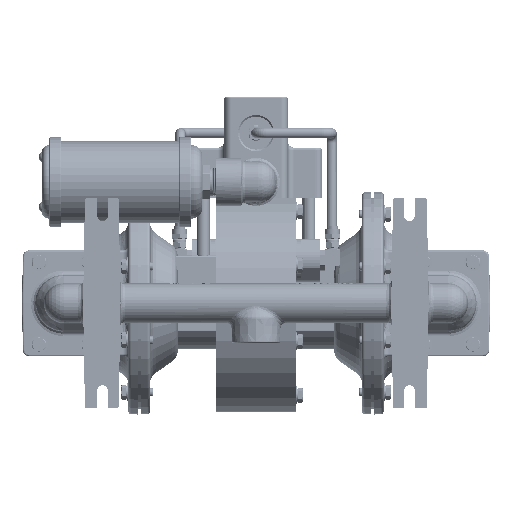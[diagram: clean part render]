
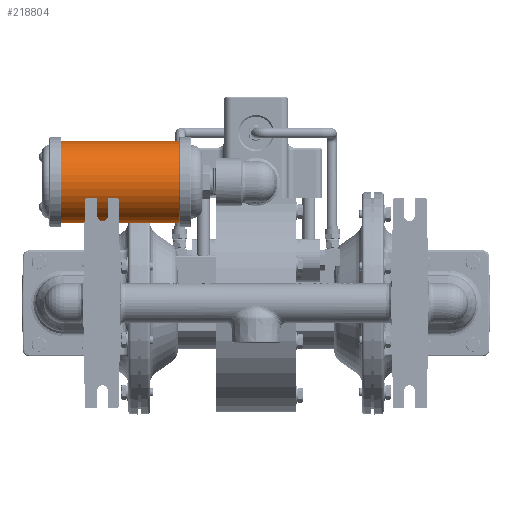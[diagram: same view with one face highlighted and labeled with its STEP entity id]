
A CAD part, front view. The second image highlights one B-rep face of the part: STEP entity #218804.
In plain terms, the highlighted cylindrical face has radius 39.243 mm (diameter 78.486 mm), a partial arc.
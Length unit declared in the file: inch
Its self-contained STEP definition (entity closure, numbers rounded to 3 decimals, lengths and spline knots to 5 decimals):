
#8023 = CARTESIAN_POINT ( 'NONE',  ( -7.389, -4.6, 6.145 ) ) ;
#22004 = CARTESIAN_POINT ( 'NONE',  ( -2.91, -4.6, 3.055 ) ) ;
#34542 = ORIENTED_EDGE ( 'NONE', *, *, #286195, .T. ) ;
#36839 = DIRECTION ( 'NONE',  ( 1., 0., 0. ) ) ;
#38742 = AXIS2_PLACEMENT_3D ( 'NONE', #213625, #169675, #286298 ) ;
#39843 = CYLINDRICAL_SURFACE ( 'NONE', #73185, 1.545 ) ;
#43217 = VECTOR ( 'NONE', #294416, 39.37008 ) ;
#53361 = VERTEX_POINT ( 'NONE', #110111 ) ;
#62474 = VERTEX_POINT ( 'NONE', #267874 ) ;
#65779 = LINE ( 'NONE', #203695, #237184 ) ;
#68714 = EDGE_LOOP ( 'NONE', ( #34542, #126124, #135237, #289343 ) ) ;
#73185 = AXIS2_PLACEMENT_3D ( 'NONE', #294401, #36839, #86819 ) ;
#86819 = DIRECTION ( 'NONE',  ( 0., 0., -1. ) ) ;
#106883 = EDGE_CURVE ( 'NONE', #62474, #206859, #111402, .T. ) ;
#110111 = CARTESIAN_POINT ( 'NONE',  ( -7.389, -4.6, 3.055 ) ) ;
#111402 = CIRCLE ( 'NONE', #38742, 1.545 ) ;
#120127 = EDGE_CURVE ( 'NONE', #62474, #156642, #162524, .T. ) ;
#126124 = ORIENTED_EDGE ( 'NONE', *, *, #258388, .F. ) ;
#135237 = ORIENTED_EDGE ( 'NONE', *, *, #106883, .F. ) ;
#135276 = CARTESIAN_POINT ( 'NONE',  ( -2.91, -4.6, 6.145 ) ) ;
#150596 = CIRCLE ( 'NONE', #285988, 1.545 ) ;
#156642 = VERTEX_POINT ( 'NONE', #8023 ) ;
#162524 = LINE ( 'NONE', #135276, #43217 ) ;
#169675 = DIRECTION ( 'NONE',  ( 1., 0., 0. ) ) ;
#203695 = CARTESIAN_POINT ( 'NONE',  ( -2.91, -4.6, 3.055 ) ) ;
#206859 = VERTEX_POINT ( 'NONE', #22004 ) ;
#213625 = CARTESIAN_POINT ( 'NONE',  ( -2.91, -4.6, 4.6 ) ) ;
#218804 = ADVANCED_FACE ( 'NONE', ( #247481 ), #39843, .T. ) ;
#223434 = DIRECTION ( 'NONE',  ( -1., 0., 0. ) ) ;
#237184 = VECTOR ( 'NONE', #223434, 39.37008 ) ;
#247481 = FACE_OUTER_BOUND ( 'NONE', #68714, .T. ) ;
#258388 = EDGE_CURVE ( 'NONE', #206859, #53361, #65779, .T. ) ;
#267874 = CARTESIAN_POINT ( 'NONE',  ( -2.91, -4.6, 6.145 ) ) ;
#280818 = DIRECTION ( 'NONE',  ( 1., 0., 0. ) ) ;
#282297 = DIRECTION ( 'NONE',  ( 0., 0., 1. ) ) ;
#285988 = AXIS2_PLACEMENT_3D ( 'NONE', #299049, #280818, #282297 ) ;
#286195 = EDGE_CURVE ( 'NONE', #156642, #53361, #150596, .T. ) ;
#286298 = DIRECTION ( 'NONE',  ( 0., 0., 1. ) ) ;
#289343 = ORIENTED_EDGE ( 'NONE', *, *, #120127, .T. ) ;
#294401 = CARTESIAN_POINT ( 'NONE',  ( -8.414, -4.6, 4.6 ) ) ;
#294416 = DIRECTION ( 'NONE',  ( -1., 0., 0. ) ) ;
#299049 = CARTESIAN_POINT ( 'NONE',  ( -7.389, -4.6, 4.6 ) ) ;
